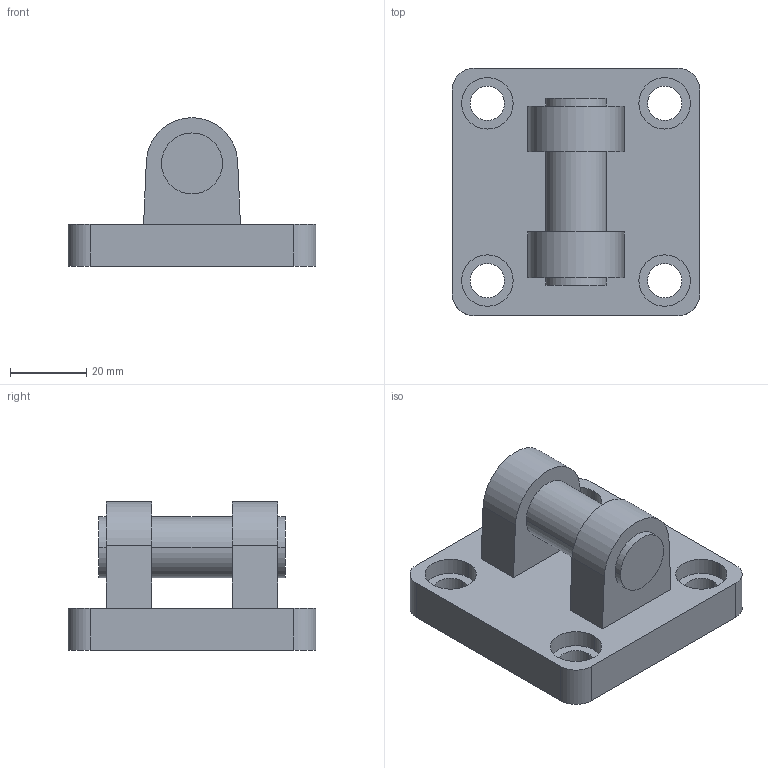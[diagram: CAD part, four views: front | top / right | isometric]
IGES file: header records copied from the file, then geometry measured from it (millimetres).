
Global section: file name: No Iges File Name specified; native system: AutoDesk Inventor R11.0; preprocessor: AutoDesk Inventor Iges Exporter R11.0; author: No Author specified; organization: No Organization specified; date: 20060711.173651; units: millimetre
Bounding box: 65 x 65 x 39 mm (x, y, z)
Volume: 55598.5 mm3; surface area: 17167.2 mm2
Topology: 1 solids, 1 shells, 51 faces, 120 edges, 80 vertices
Faces by surface type: bspline 23, plane 16, cylinder 12
